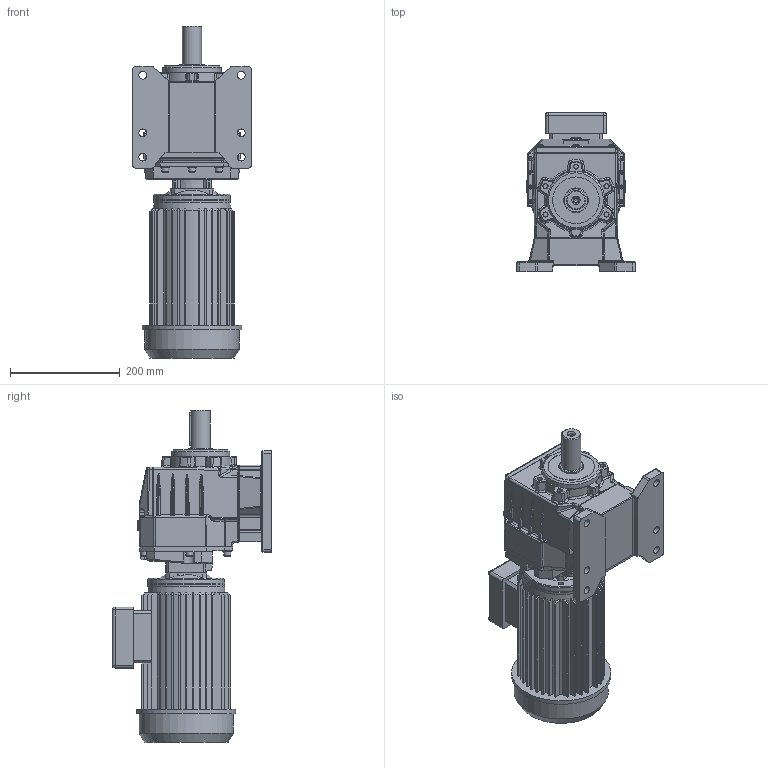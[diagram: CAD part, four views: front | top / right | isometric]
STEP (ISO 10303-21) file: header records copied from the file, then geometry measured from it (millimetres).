
FILE_DESCRIPTION( ( 'Unknown' ), '1' );
FILE_NAME( 'E:/services/configuratordownloads/customers/HYDROMEC/COASSIALI/download/D01B298D4ECBCF23E4E7B170ECB170DB/STEP/D01B298D4ECBCF23E4E7B170ECB170DB.3d.stp', 'Unknown', ( 'Unknown' ), ( 'Unknown' ), 'PSStep 10.1', 'Unknown', ' ' );
FILE_SCHEMA( ( 'AUTOMOTIVE_DESIGN { 1 0 10303 214 1 1 1 1 }' ) );
Length unit declared in the file: millimetre
Products named in the file (1): C618800
Bounding box: 216 x 291.05 x 606 mm (x, y, z)
Volume: 12261446.6 mm3; surface area: 678277.2 mm2
Topology: 1 solids, 29 shells, 1647 faces, 4051 edges, 2531 vertices
Faces by surface type: plane 802, cylinder 453, bspline 212, cone 95, torus 55, sphere 26, extrusion 4
Full cylindrical faces by diameter (mm): 6 x6, 6.5 x1, 6.647 x4, 6.8 x8, 7.175 x6, 8.376 x6, 8.5 x8, 9 x4, 10 x6, 10.106 x4, 10.5 x1, 11.3 x1, 11.445 x2, 12.75 x8, 13 x7, 13.5 x1, 14 x6, 18 x1, 19 x1, 22 x1, 35 x2, 35.5 x1, 45 x1, 47 x2, 85 x1, 95 x1, 106 x1, 140 x1, 172 x1, 181 x1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
Entity records: 72913 total; most frequent: CARTESIAN_POINT 23350, ORIENTED_EDGE 7562, DIRECTION 7084, EDGE_CURVE 3781, AXIS2_PLACEMENT_3D 2524, VERTEX_POINT 2453, VECTOR 2036, LINE 2032
